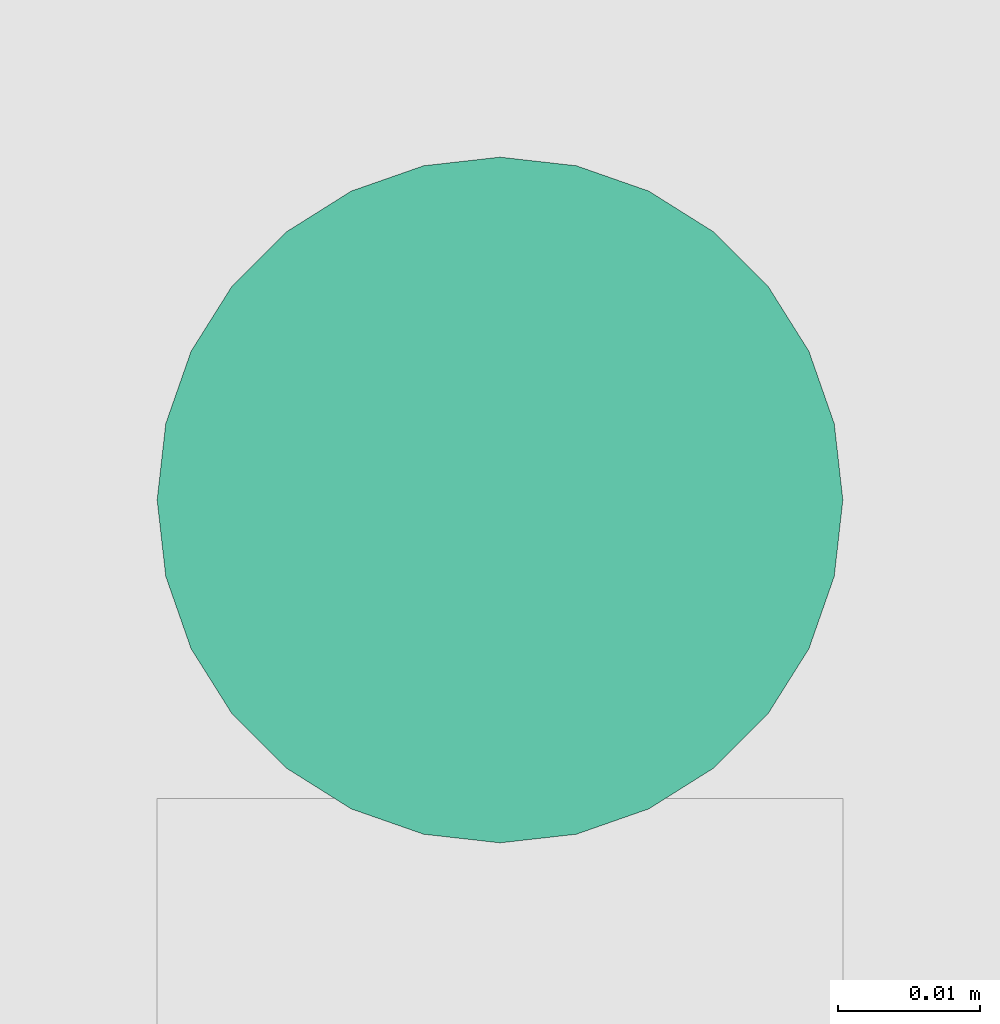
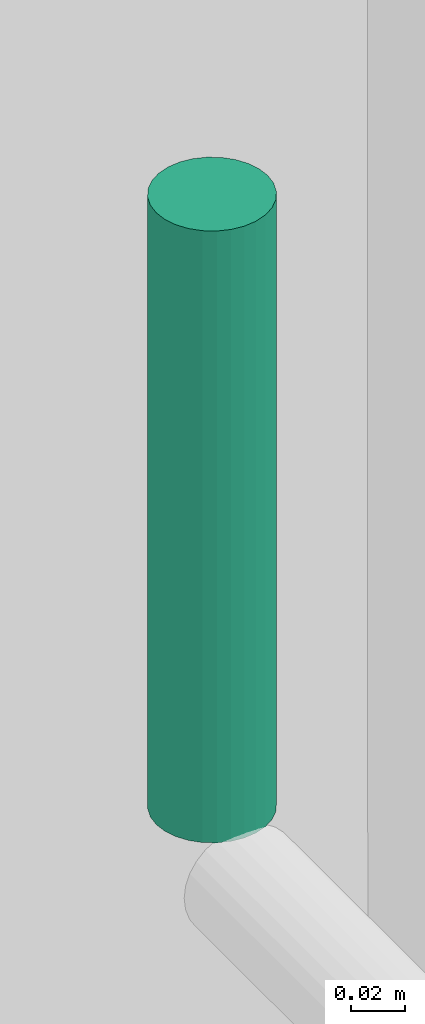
# One storey, part 41 of 71: 1 pipe segment.
"""IFC4 building model written with IfcOpenShell, lengths in centimetres."""

from ifc_helpers import new_model, entity, si_unit, converted_unit, derived_unit, direction, frame, origin, place, context, subcontext, project, spatial, arc, indexed_curve, outline, extrude, type_object, element, save


model = new_model("IFC4")

# Units and contexts
model_context = context("Model", 3, precision=0.001, world=origin(), true_north=direction((6.123233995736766e-17, 1.0)))
body_context = subcontext(model_context, "Body", "Model", "MODEL_VIEW")
ifc_project = project(units=[si_unit("LENGTHUNIT", "METRE", prefix="CENTI"), si_unit("AREAUNIT", "SQUARE_METRE"), si_unit("VOLUMEUNIT", "CUBIC_METRE"), derived_unit("THERMALTRANSMITTANCEUNIT", [(si_unit("MASSUNIT", "GRAM", prefix="KILO"), 1), (si_unit("THERMODYNAMICTEMPERATUREUNIT", "KELVIN"), -1), (si_unit("TIMEUNIT", "SECOND"), -3)]), converted_unit("PLANEANGLEUNIT", "DEGREE", entity("IfcPlaneAngleMeasure", 0.017453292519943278), si_unit("PLANEANGLEUNIT", "RADIAN"), dimensions=[0, 0, 0, 0, 0, 0, 0]), derived_unit("MASSDENSITYUNIT", [(si_unit("MASSUNIT", "GRAM", prefix="KILO"), 1), (si_unit("LENGTHUNIT", "METRE"), -3)]), derived_unit("VAPORPERMEABILITYUNIT", [(si_unit("LENGTHUNIT", "METRE"), -1), (si_unit("TIMEUNIT", "SECOND"), 1)]), derived_unit("USERDEFINED", [(si_unit("MASSUNIT", "GRAM", prefix="KILO"), 1), (si_unit("TIMEUNIT", "SECOND"), -3), (si_unit("LENGTHUNIT", "METRE"), 3), (si_unit("ELECTRICCURRENTUNIT", "AMPERE"), -2)]), derived_unit("SPECIFICHEATCAPACITYUNIT", [(si_unit("THERMODYNAMICTEMPERATUREUNIT", "KELVIN"), -1), (si_unit("LENGTHUNIT", "METRE"), 2), (si_unit("TIMEUNIT", "SECOND"), -2)]), derived_unit("THERMALCONDUCTANCEUNIT", [(si_unit("MASSUNIT", "GRAM", prefix="KILO"), 1), (si_unit("THERMODYNAMICTEMPERATUREUNIT", "KELVIN"), -1), (si_unit("TIMEUNIT", "SECOND"), -3), (si_unit("LENGTHUNIT", "METRE"), 1)]), si_unit("PRESSUREUNIT", "PASCAL"), derived_unit("MODULUSOFELASTICITYUNIT", [(si_unit("MASSUNIT", "GRAM", prefix="KILO"), 1), (si_unit("LENGTHUNIT", "METRE"), -1), (si_unit("TIMEUNIT", "SECOND"), -2)]), derived_unit("THERMALEXPANSIONCOEFFICIENTUNIT", [(si_unit("THERMODYNAMICTEMPERATUREUNIT", "KELVIN"), -1)])], contexts=[model_context])

# Site, building, storey
site_placement = place(None, origin())
site = spatial("IfcSite", under=ifc_project, at=site_placement, Name="Default", CompositionType="ELEMENT")
building_placement = place(site_placement, origin())
building = spatial("IfcBuilding", under=site, at=building_placement, Name="IDS Escape Game Building", CompositionType="ELEMENT")
storey_placement = place(building_placement, frame((0.0, 0.0, 1200.0)))
storey = spatial("IfcBuildingStorey", under=building, at=storey_placement, Name="03_Third Floor", CompositionType="ELEMENT", Elevation=1200.0)

# Pipe segment
pipe_segment_type = type_object("IfcPipeSegmentType", Name="Pipe Types:Piping Aluminum", PredefinedType="NOTDEFINED")
pipe_segment_placement = place(storey_placement, origin())
element("IfcPipeSegment", 1, at=pipe_segment_placement, inside=storey, type_object=pipe_segment_type, Name="Pipe Types:Piping Aluminum", ObjectType="Pipe Types:Piping Aluminum", PredefinedType="NOTDEFINED", context=body_context, shape_type="SweptSolid", body=[
    extrude(outline(indexed_curve([(2.412999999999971, 0.0), (1.7062486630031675, 1.7062486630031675), (0.0, 2.412999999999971), (-1.7062486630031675, 1.7062486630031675), (-2.412999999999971, 0.0), (-1.7062486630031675, -1.7062486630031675), (0.0, -2.412999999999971), (1.7062486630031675, -1.7062486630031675)], segments=[arc(1, 2, 3), arc(3, 4, 5), arc(5, 6, 7), arc(7, 8, 1)], self_intersect=False)), frame((768.0467168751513, 1509.264827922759, 244.09999999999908), z_axis=(0.0, 0.0, 1.0), x_axis=(-1.0, 0.0, 0.0)), (0.0, 0.0, 1.0), 27.90000000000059),
])

save(model, "model.ifc")
